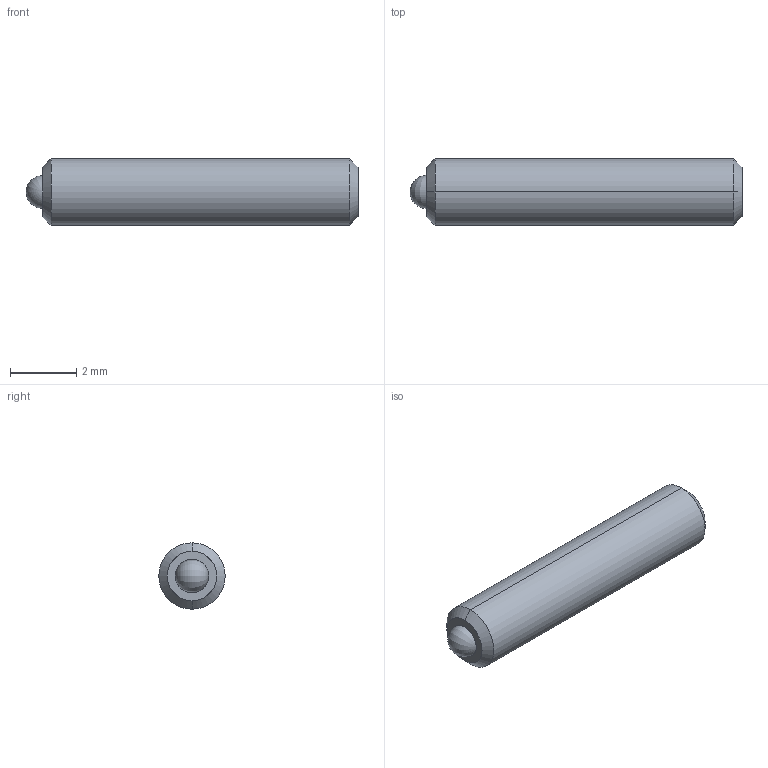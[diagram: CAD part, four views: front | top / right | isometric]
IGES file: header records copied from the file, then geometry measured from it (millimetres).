
Start section: SolidWorks IGES file using analytic representation for surfaces
Global section: file name: C:\Users\workpc\Desktop\KMA Solidworks\TS2-25-10.IGS; native system: SolidWorks 2013; preprocessor: SolidWorks 2013; author: workpc; date: 130217.114700; units: millimetre
Bounding box: 10 x 2 x 2 mm (x, y, z)
Surface area: 74.9 mm2 (no closed solid volume)
Topology: 0 solids, 0 shells, 20 faces, 140 edges, 136 vertices
Faces by surface type: revolution 10, bspline 10
